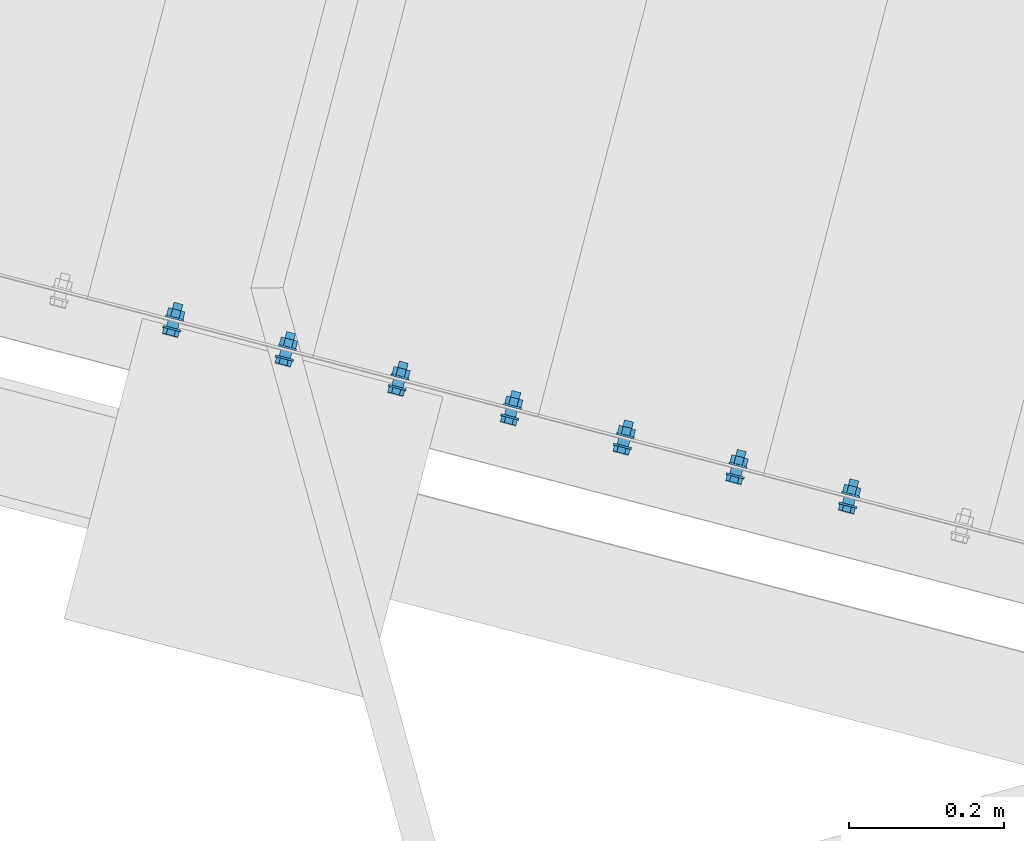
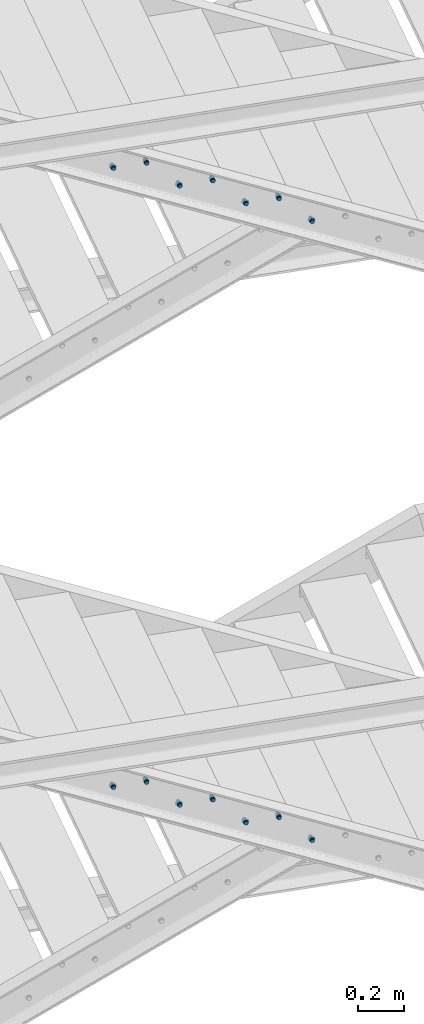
# One storey, part 136 of 169: 14 mechanical fasteners, 8 elements without a shape of their own.
"""IFC2X3 building model written with IfcOpenShell, lengths in millimetres."""

from ifc_helpers import new_model, si_unit, frame, frame_2d, origin_with_axes, origin_2d_with_axis, place, context, subcontext, project, spatial, polyline, circle_curve, parameter, trimmed, segment, composite_curve, circle, outline, extrude, source, transform, mapped, material, type_object, element, aggregate, save


model = new_model("IFC2X3")

# Units and contexts
model_context = context("Model", 3, precision=1e-05, world=origin_with_axes())
body_context = subcontext(model_context, "Body", "Model", "MODEL_VIEW")
ifc_project = project(units=[si_unit("LENGTHUNIT", "METRE", prefix="MILLI"), si_unit("AREAUNIT", "SQUARE_METRE"), si_unit("VOLUMEUNIT", "CUBIC_METRE"), si_unit("MASSUNIT", "GRAM", prefix="KILO"), si_unit("TIMEUNIT", "SECOND"), si_unit("PLANEANGLEUNIT", "RADIAN"), si_unit("SOLIDANGLEUNIT", "STERADIAN"), si_unit("THERMODYNAMICTEMPERATUREUNIT", "DEGREE_CELSIUS"), si_unit("LUMINOUSINTENSITYUNIT", "LUMEN")], contexts=[model_context])

# Site, building, storey
site_placement = place(None, origin_with_axes())
site = spatial("IfcSite", under=ifc_project, at=site_placement, Name="Undefined", CompositionType="ELEMENT")
building_placement = place(site_placement, origin_with_axes())
building = spatial("IfcBuilding", under=site, at=building_placement, Name="Undefined", CompositionType="ELEMENT")
storey_placement = place(building_placement, origin_with_axes())
storey = spatial("IfcBuildingStorey", under=building, at=storey_placement, Name="Undefined", CompositionType="ELEMENT", Elevation=0.0)

# Assembly, mechanical fastener
assembly_1_placement = place(storey_placement, origin_with_axes())
assembly_1 = element("IfcElementAssembly", 1, at=assembly_1_placement, inside=storey, Name="Steel Assembly", AssemblyPlace="NOTDEFINED", PredefinedType="RIGID_FRAME")
ifc_material = material(Name="Undefined")
discrete_accessory_type = type_object("IfcDiscreteAccessoryType", Name="Bolt assembly")
shared_shape_1 = source(origin_with_axes(), body_context, "Body", "SweptSolid", [
    extrude(circle(Radius=7.5, at=origin_2d_with_axis()), frame((0.0, -8.39999975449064, 0.0), z_axis=(0.0, 1.0, 0.0), x_axis=(1.0, 0.0, 0.0)), (0.0, 0.0, 1.0), 8.5),
    extrude(circle(Radius=7.5, at=origin_2d_with_axis()), frame((0.0, -0.100000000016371, 0.0), z_axis=(0.0, 1.0, 0.0), x_axis=(1.0, 0.0, 0.0)), (0.0, 0.0, 1.0), 3.1),
    extrude(outline(polyline([(10.39230484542, 0.0), (5.19615242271, 9.00000000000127), (-5.19615242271, 9.00000000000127), (-10.39230484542, 0.0), (-5.19615242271, -9.00000000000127), (5.19615242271, -9.00000000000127), (10.39230484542, 0.0)])), frame((0.0, -18.4999993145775, 0.0), z_axis=(0.0, 1.0, 0.0), x_axis=(1.0, 0.0, 0.0)), (0.0, 0.0, 1.0), 7.5),
    extrude(circle(Radius=6.0, at=origin_2d_with_axis()), frame((0.0, -10.9999999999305, 0.0), z_axis=(0.0, 1.0, 0.0), x_axis=(1.0, 0.0, 0.0)), (0.0, 0.0, 1.0), 35.0),
    extrude(circle(Radius=12.0, at=origin_2d_with_axis()), frame((0.0, -10.9999999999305, 0.0), z_axis=(0.0, 1.0, 0.0), x_axis=(1.0, 0.0, 0.0)), (0.0, 0.0, 1.0), 2.5),
    extrude(circle(Radius=12.0, at=origin_2d_with_axis()), frame((0.0, 2.99999999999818, 0.0), z_axis=(0.0, 1.0, 0.0), x_axis=(1.0, 0.0, 0.0)), (0.0, 0.0, 1.0), 2.5),
    extrude(outline(polyline([(10.96965511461, 0.0), (5.484827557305, 9.50000000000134), (-5.484827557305, 9.50000000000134), (-10.96965511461, 0.0), (-5.484827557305, -9.50000000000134), (5.484827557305, -9.50000000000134), (10.96965511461, 0.0)])), frame((0.0, 5.50000000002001, 0.0), z_axis=(0.0, 1.0, 0.0), x_axis=(1.0, 0.0, 0.0)), (0.0, 0.0, 1.0), 10.0),
])
mechanical_fastener_1_placement = place(assembly_1_placement, frame((-27175.3092427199, 5510.20873602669, 11750.3215824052), z_axis=(-2.54700353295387e-10, 0.0, -1.0), x_axis=(-0.967546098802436, 0.252694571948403, 0.0)))
mechanical_fastener_1 = element("IfcMechanicalFastener", 2, at=mechanical_fastener_1_placement, type_object=discrete_accessory_type, material=ifc_material, Name="Bolt assembly", NominalDiameter=12.0, NominalLength=35.0, context=body_context, shape_type="MappedRepresentation", body=[
    mapped(shared_shape_1, transform((35.0000000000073, -1.23691279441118e-10, 25.0))),
])

assembly_2_placement = place(storey_placement, origin_with_axes())
assembly_2 = element("IfcElementAssembly", 3, at=assembly_2_placement, inside=storey, Name="Steel Assembly", AssemblyPlace="NOTDEFINED", PredefinedType="RIGID_FRAME")
mechanical_fastener_2_placement = place(assembly_2_placement, frame((-26885.0454096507, 5434.40036367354, 11600.3215824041), z_axis=(-2.54700353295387e-10, 0.0, -1.0), x_axis=(-0.967546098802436, 0.252694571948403, 0.0)))
mechanical_fastener_2 = element("IfcMechanicalFastener", 4, at=mechanical_fastener_2_placement, type_object=discrete_accessory_type, material=ifc_material, Name="Bolt assembly", NominalDiameter=12.0, NominalLength=35.0, context=body_context, shape_type="MappedRepresentation", body=[
    mapped(shared_shape_1, transform((35.0000000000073, -1.23691279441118e-10, 25.0))),
])

assembly_3_placement = place(storey_placement, origin_with_axes())
assembly_3 = element("IfcElementAssembly", 5, at=assembly_3_placement, inside=storey, Name="Steel Assembly", AssemblyPlace="NOTDEFINED", PredefinedType="RIGID_FRAME")
mechanical_fastener_3_placement = place(assembly_3_placement, frame((-26594.7815765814, 5358.59199132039, 11450.3215824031), z_axis=(-2.54700353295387e-10, 0.0, -1.0), x_axis=(-0.967546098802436, 0.252694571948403, 0.0)))
mechanical_fastener_3 = element("IfcMechanicalFastener", 6, at=mechanical_fastener_3_placement, type_object=discrete_accessory_type, material=ifc_material, Name="Bolt assembly", NominalDiameter=12.0, NominalLength=35.0, context=body_context, shape_type="MappedRepresentation", body=[
    mapped(shared_shape_1, transform((35.0000000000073, -1.23691279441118e-10, 25.0))),
])

assembly_4_placement = place(storey_placement, origin_with_axes())
assembly_4 = element("IfcElementAssembly", 7, at=assembly_4_placement, inside=storey, Name="Steel Assembly", AssemblyPlace="NOTDEFINED", PredefinedType="RIGID_FRAME")
mechanical_fastener_4_placement = place(assembly_4_placement, frame((-27175.4233201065, 5509.77182105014, 8450.32161330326), z_axis=(-2.54700353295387e-10, 0.0, -1.0), x_axis=(-0.967546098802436, 0.252694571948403, 0.0)))
mechanical_fastener_4 = element("IfcMechanicalFastener", 8, at=mechanical_fastener_4_placement, type_object=discrete_accessory_type, material=ifc_material, Name="Bolt assembly", NominalDiameter=12.0, NominalLength=35.0, context=body_context, shape_type="MappedRepresentation", body=[
    mapped(shared_shape_1, transform((35.0000000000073, -1.23691279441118e-10, 25.0))),
])

assembly_5_placement = place(storey_placement, origin_with_axes())
assembly_5 = element("IfcElementAssembly", 9, at=assembly_5_placement, inside=storey, Name="Steel Assembly", AssemblyPlace="NOTDEFINED", PredefinedType="RIGID_FRAME")
mechanical_fastener_5_placement = place(assembly_5_placement, frame((-26885.1594870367, 5433.96344869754, 8300.32161330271), z_axis=(-2.54700353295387e-10, 0.0, -1.0), x_axis=(-0.967546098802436, 0.252694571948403, 0.0)))
mechanical_fastener_5 = element("IfcMechanicalFastener", 10, at=mechanical_fastener_5_placement, type_object=discrete_accessory_type, material=ifc_material, Name="Bolt assembly", NominalDiameter=12.0, NominalLength=35.0, context=body_context, shape_type="MappedRepresentation", body=[
    mapped(shared_shape_1, transform((35.0000000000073, -1.23691279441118e-10, 25.0))),
])

assembly_6_placement = place(storey_placement, origin_with_axes())
assembly_6 = element("IfcElementAssembly", 11, at=assembly_6_placement, inside=storey, Name="Steel Assembly", AssemblyPlace="NOTDEFINED", PredefinedType="RIGID_FRAME")
mechanical_fastener_6_placement = place(assembly_6_placement, frame((-26594.8956539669, 5358.15507634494, 8150.32161330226), z_axis=(-2.54700353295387e-10, 0.0, -1.0), x_axis=(-0.967546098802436, 0.252694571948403, 0.0)))
mechanical_fastener_6 = element("IfcMechanicalFastener", 12, at=mechanical_fastener_6_placement, type_object=discrete_accessory_type, material=ifc_material, Name="Bolt assembly", NominalDiameter=12.0, NominalLength=35.0, context=body_context, shape_type="MappedRepresentation", body=[
    mapped(shared_shape_1, transform((35.0000000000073, -1.23691279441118e-10, 25.0))),
])

# Mechanical fastener
shared_shape_2 = source(origin_with_axes(), body_context, "Body", "SweptSolid", [
    extrude(circle(Radius=7.5, at=origin_2d_with_axis()), frame((0.0, -8.39999975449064, 0.0), z_axis=(0.0, 1.0, 0.0), x_axis=(1.0, 0.0, 0.0)), (0.0, 0.0, 1.0), 8.5),
    extrude(outline(composite_curve([segment(polyline([(-10.0, 7.5), (10.0, 7.5)]), True, "CONTINUOUS"), segment(trimmed(circle_curve(frame_2d((10.0, 0.0), x_axis=(0.0, 1.0)), 7.5), [parameter(0.0)], [parameter(3.14159265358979)], False, "PARAMETER"), True, "CONTINUOUS"), segment(polyline([(10.0, -7.5), (-10.0, -7.5)]), True, "CONTINUOUS"), segment(trimmed(circle_curve(frame_2d((-10.0, 0.0), x_axis=(0.0, -1.0)), 7.5), [parameter(0.0)], [parameter(3.14159265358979)], False, "PARAMETER"), True, "DISCONTINUOUS")], self_intersect=False)), frame((0.0, -0.100000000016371, 0.0), z_axis=(0.0, 1.0, 0.0), x_axis=(1.0, 0.0, 0.0)), (0.0, 0.0, 1.0), 3.1),
    extrude(outline(polyline([(10.39230484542, 0.0), (5.19615242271, 9.00000000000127), (-5.19615242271, 9.00000000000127), (-10.39230484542, 0.0), (-5.19615242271, -9.00000000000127), (5.19615242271, -9.00000000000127), (10.39230484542, 0.0)])), frame((0.0, -18.4999993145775, 0.0), z_axis=(0.0, 1.0, 0.0), x_axis=(1.0, 0.0, 0.0)), (0.0, 0.0, 1.0), 7.5),
    extrude(circle(Radius=6.0, at=origin_2d_with_axis()), frame((0.0, -10.9999999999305, 0.0), z_axis=(0.0, 1.0, 0.0), x_axis=(1.0, 0.0, 0.0)), (0.0, 0.0, 1.0), 35.0),
    extrude(circle(Radius=12.0, at=origin_2d_with_axis()), frame((0.0, -10.9999999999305, 0.0), z_axis=(0.0, 1.0, 0.0), x_axis=(1.0, 0.0, 0.0)), (0.0, 0.0, 1.0), 2.5),
    extrude(circle(Radius=12.0, at=origin_2d_with_axis()), frame((0.0, 2.99999999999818, 0.0), z_axis=(0.0, 1.0, 0.0), x_axis=(1.0, 0.0, 0.0)), (0.0, 0.0, 1.0), 2.5),
    extrude(outline(polyline([(10.96965511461, 0.0), (5.484827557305, 9.50000000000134), (-5.484827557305, 9.50000000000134), (-10.96965511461, 0.0), (-5.484827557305, -9.50000000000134), (5.484827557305, -9.50000000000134), (10.96965511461, 0.0)])), frame((0.0, 5.50000000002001, 0.0), z_axis=(0.0, 1.0, 0.0), x_axis=(1.0, 0.0, 0.0)), (0.0, 0.0, 1.0), 10.0),
])
mechanical_fastener_7_placement = place(assembly_1_placement, frame((-27175.3092427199, 5510.20873602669, 11750.3215824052), z_axis=(-2.54700353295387e-10, 0.0, -1.0), x_axis=(-0.967546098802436, 0.252694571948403, 0.0)))
mechanical_fastener_7 = element("IfcMechanicalFastener", 13, at=mechanical_fastener_7_placement, type_object=discrete_accessory_type, material=ifc_material, Name="Bolt assembly", NominalDiameter=12.0, NominalLength=35.0, context=body_context, shape_type="MappedRepresentation", body=[
    mapped(shared_shape_2, transform((185.00000000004, -6.51198206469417e-10, 25.0))),
])

aggregate(assembly_1, [mechanical_fastener_7, mechanical_fastener_1])

shared_shape_3 = source(origin_with_axes(), body_context, "Body", "SweptSolid", [
    extrude(circle(Radius=7.5, at=origin_2d_with_axis()), frame((0.0, -8.39999975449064, 0.0), z_axis=(0.0, 1.0, 0.0), x_axis=(1.0, 0.0, 0.0)), (0.0, 0.0, 1.0), 8.5),
    extrude(outline(composite_curve([segment(polyline([(-10.0, 7.5), (10.0, 7.5)]), True, "CONTINUOUS"), segment(trimmed(circle_curve(frame_2d((10.0, 0.0), x_axis=(0.0, 1.0)), 7.5), [parameter(0.0)], [parameter(3.14159265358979)], False, "PARAMETER"), True, "CONTINUOUS"), segment(polyline([(10.0, -7.5), (-10.0, -7.5)]), True, "CONTINUOUS"), segment(trimmed(circle_curve(frame_2d((-10.0, 0.0), x_axis=(0.0, -1.0)), 7.5), [parameter(0.0)], [parameter(3.14159265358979)], False, "PARAMETER"), True, "DISCONTINUOUS")], self_intersect=False)), frame((0.0, -0.100000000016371, 0.0), z_axis=(0.0, 1.0, 0.0), x_axis=(1.0, 0.0, 0.0)), (0.0, 0.0, 1.0), 3.1),
    extrude(outline(polyline([(10.39230484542, 0.0), (5.19615242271, 9.00000000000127), (-5.19615242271, 9.00000000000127), (-10.39230484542, 0.0), (-5.19615242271, -9.00000000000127), (5.19615242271, -9.00000000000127), (10.39230484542, 0.0)])), frame((0.0, -18.4999993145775, 0.0), z_axis=(0.0, 1.0, 0.0), x_axis=(1.0, 0.0, 0.0)), (0.0, 0.0, 1.0), 7.5),
    extrude(circle(Radius=6.0, at=origin_2d_with_axis()), frame((0.0, -10.9999999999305, 0.0), z_axis=(0.0, 1.0, 0.0), x_axis=(1.0, 0.0, 0.0)), (0.0, 0.0, 1.0), 35.0),
    extrude(circle(Radius=12.0, at=origin_2d_with_axis()), frame((0.0, -10.9999999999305, 0.0), z_axis=(0.0, 1.0, 0.0), x_axis=(1.0, 0.0, 0.0)), (0.0, 0.0, 1.0), 2.5),
    extrude(circle(Radius=12.0, at=origin_2d_with_axis()), frame((0.0, 2.99999999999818, 0.0), z_axis=(0.0, 1.0, 0.0), x_axis=(1.0, 0.0, 0.0)), (0.0, 0.0, 1.0), 2.5),
    extrude(outline(polyline([(10.96965511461, 0.0), (5.484827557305, 9.50000000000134), (-5.484827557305, 9.50000000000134), (-10.96965511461, 0.0), (-5.484827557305, -9.50000000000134), (5.484827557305, -9.50000000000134), (10.96965511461, 0.0)])), frame((0.0, 5.50000000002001, 0.0), z_axis=(0.0, 1.0, 0.0), x_axis=(1.0, 0.0, 0.0)), (0.0, 0.0, 1.0), 10.0),
])
mechanical_fastener_8_placement = place(assembly_2_placement, frame((-26885.0454096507, 5434.40036367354, 11600.3215824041), z_axis=(-2.54700353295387e-10, 0.0, -1.0), x_axis=(-0.967546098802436, 0.252694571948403, 0.0)))
mechanical_fastener_8 = element("IfcMechanicalFastener", 14, at=mechanical_fastener_8_placement, type_object=discrete_accessory_type, material=ifc_material, Name="Bolt assembly", NominalDiameter=12.0, NominalLength=35.0, context=body_context, shape_type="MappedRepresentation", body=[
    mapped(shared_shape_3, transform((185.00000000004, -6.51198206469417e-10, 25.0))),
])

aggregate(assembly_2, [mechanical_fastener_8, mechanical_fastener_2])

shared_shape_4 = source(origin_with_axes(), body_context, "Body", "SweptSolid", [
    extrude(circle(Radius=7.5, at=origin_2d_with_axis()), frame((0.0, -8.39999975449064, 0.0), z_axis=(0.0, 1.0, 0.0), x_axis=(1.0, 0.0, 0.0)), (0.0, 0.0, 1.0), 8.5),
    extrude(outline(composite_curve([segment(polyline([(-10.0, 7.5), (10.0, 7.5)]), True, "CONTINUOUS"), segment(trimmed(circle_curve(frame_2d((10.0, 0.0), x_axis=(0.0, 1.0)), 7.5), [parameter(0.0)], [parameter(3.14159265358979)], False, "PARAMETER"), True, "CONTINUOUS"), segment(polyline([(10.0, -7.5), (-10.0, -7.5)]), True, "CONTINUOUS"), segment(trimmed(circle_curve(frame_2d((-10.0, 0.0), x_axis=(0.0, -1.0)), 7.5), [parameter(0.0)], [parameter(3.14159265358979)], False, "PARAMETER"), True, "DISCONTINUOUS")], self_intersect=False)), frame((0.0, -0.100000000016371, 0.0), z_axis=(0.0, 1.0, 0.0), x_axis=(1.0, 0.0, 0.0)), (0.0, 0.0, 1.0), 3.1),
    extrude(outline(polyline([(10.39230484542, 0.0), (5.19615242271, 9.00000000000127), (-5.19615242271, 9.00000000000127), (-10.39230484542, 0.0), (-5.19615242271, -9.00000000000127), (5.19615242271, -9.00000000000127), (10.39230484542, 0.0)])), frame((0.0, -18.4999993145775, 0.0), z_axis=(0.0, 1.0, 0.0), x_axis=(1.0, 0.0, 0.0)), (0.0, 0.0, 1.0), 7.5),
    extrude(circle(Radius=6.0, at=origin_2d_with_axis()), frame((0.0, -10.9999999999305, 0.0), z_axis=(0.0, 1.0, 0.0), x_axis=(1.0, 0.0, 0.0)), (0.0, 0.0, 1.0), 35.0),
    extrude(circle(Radius=12.0, at=origin_2d_with_axis()), frame((0.0, -10.9999999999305, 0.0), z_axis=(0.0, 1.0, 0.0), x_axis=(1.0, 0.0, 0.0)), (0.0, 0.0, 1.0), 2.5),
    extrude(circle(Radius=12.0, at=origin_2d_with_axis()), frame((0.0, 2.99999999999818, 0.0), z_axis=(0.0, 1.0, 0.0), x_axis=(1.0, 0.0, 0.0)), (0.0, 0.0, 1.0), 2.5),
    extrude(outline(polyline([(10.96965511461, 0.0), (5.484827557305, 9.50000000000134), (-5.484827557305, 9.50000000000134), (-10.96965511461, 0.0), (-5.484827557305, -9.50000000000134), (5.484827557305, -9.50000000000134), (10.96965511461, 0.0)])), frame((0.0, 5.50000000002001, 0.0), z_axis=(0.0, 1.0, 0.0), x_axis=(1.0, 0.0, 0.0)), (0.0, 0.0, 1.0), 10.0),
])
mechanical_fastener_9_placement = place(assembly_3_placement, frame((-26594.7815765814, 5358.59199132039, 11450.3215824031), z_axis=(-2.54700353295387e-10, 0.0, -1.0), x_axis=(-0.967546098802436, 0.252694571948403, 0.0)))
mechanical_fastener_9 = element("IfcMechanicalFastener", 15, at=mechanical_fastener_9_placement, type_object=discrete_accessory_type, material=ifc_material, Name="Bolt assembly", NominalDiameter=12.0, NominalLength=35.0, context=body_context, shape_type="MappedRepresentation", body=[
    mapped(shared_shape_4, transform((185.00000000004, -6.51198206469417e-10, 25.0))),
])

aggregate(assembly_3, [mechanical_fastener_9, mechanical_fastener_3])

# Assembly, mechanical fastener
assembly_7_placement = place(storey_placement, origin_with_axes())
assembly_7 = element("IfcElementAssembly", 16, at=assembly_7_placement, inside=storey, Name="Steel Assembly", AssemblyPlace="NOTDEFINED", PredefinedType="RIGID_FRAME")
shared_shape_5 = source(origin_with_axes(), body_context, "Body", "SweptSolid", [
    extrude(circle(Radius=7.5, at=origin_2d_with_axis()), frame((0.0, -8.39999975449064, 0.0), z_axis=(0.0, 1.0, 0.0), x_axis=(1.0, 0.0, 0.0)), (0.0, 0.0, 1.0), 8.5),
    extrude(outline(composite_curve([segment(polyline([(-10.0, 7.5), (10.0, 7.5)]), True, "CONTINUOUS"), segment(trimmed(circle_curve(frame_2d((10.0, 0.0), x_axis=(0.0, 1.0)), 7.5), [parameter(0.0)], [parameter(3.14159265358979)], False, "PARAMETER"), True, "CONTINUOUS"), segment(polyline([(10.0, -7.5), (-10.0, -7.5)]), True, "CONTINUOUS"), segment(trimmed(circle_curve(frame_2d((-10.0, 0.0), x_axis=(0.0, -1.0)), 7.5), [parameter(0.0)], [parameter(3.14159265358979)], False, "PARAMETER"), True, "DISCONTINUOUS")], self_intersect=False)), frame((0.0, -0.100000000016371, 0.0), z_axis=(0.0, 1.0, 0.0), x_axis=(1.0, 0.0, 0.0)), (0.0, 0.0, 1.0), 3.1),
    extrude(outline(polyline([(10.39230484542, 0.0), (5.19615242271, 9.00000000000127), (-5.19615242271, 9.00000000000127), (-10.39230484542, 0.0), (-5.19615242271, -9.00000000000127), (5.19615242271, -9.00000000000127), (10.39230484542, 0.0)])), frame((0.0, -18.4999993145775, 0.0), z_axis=(0.0, 1.0, 0.0), x_axis=(1.0, 0.0, 0.0)), (0.0, 0.0, 1.0), 7.5),
    extrude(circle(Radius=6.0, at=origin_2d_with_axis()), frame((0.0, -10.9999999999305, 0.0), z_axis=(0.0, 1.0, 0.0), x_axis=(1.0, 0.0, 0.0)), (0.0, 0.0, 1.0), 35.0),
    extrude(circle(Radius=12.0, at=origin_2d_with_axis()), frame((0.0, -10.9999999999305, 0.0), z_axis=(0.0, 1.0, 0.0), x_axis=(1.0, 0.0, 0.0)), (0.0, 0.0, 1.0), 2.5),
    extrude(circle(Radius=12.0, at=origin_2d_with_axis()), frame((0.0, 2.99999999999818, 0.0), z_axis=(0.0, 1.0, 0.0), x_axis=(1.0, 0.0, 0.0)), (0.0, 0.0, 1.0), 2.5),
    extrude(outline(polyline([(10.96965511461, 0.0), (5.484827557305, 9.50000000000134), (-5.484827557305, 9.50000000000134), (-10.96965511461, 0.0), (-5.484827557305, -9.50000000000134), (5.484827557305, -9.50000000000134), (10.96965511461, 0.0)])), frame((0.0, 5.50000000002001, 0.0), z_axis=(0.0, 1.0, 0.0), x_axis=(1.0, 0.0, 0.0)), (0.0, 0.0, 1.0), 10.0),
])
mechanical_fastener_10_placement = place(assembly_7_placement, frame((-26304.5177435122, 5282.78361896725, 11300.321582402), z_axis=(-2.54700353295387e-10, 0.0, -1.0), x_axis=(-0.967546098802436, 0.252694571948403, 0.0)))
mechanical_fastener_10 = element("IfcMechanicalFastener", 17, at=mechanical_fastener_10_placement, type_object=discrete_accessory_type, material=ifc_material, Name="Bolt assembly", NominalDiameter=12.0, NominalLength=35.0, context=body_context, shape_type="MappedRepresentation", body=[
    mapped(shared_shape_5, transform((185.00000000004, -6.51198206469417e-10, 25.0))),
])
aggregate(assembly_7, [mechanical_fastener_10])

# Mechanical fastener
shared_shape_6 = source(origin_with_axes(), body_context, "Body", "SweptSolid", [
    extrude(circle(Radius=7.5, at=origin_2d_with_axis()), frame((0.0, -8.39999975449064, 0.0), z_axis=(0.0, 1.0, 0.0), x_axis=(1.0, 0.0, 0.0)), (0.0, 0.0, 1.0), 8.5),
    extrude(outline(composite_curve([segment(polyline([(-10.0, 7.5), (10.0, 7.5)]), True, "CONTINUOUS"), segment(trimmed(circle_curve(frame_2d((10.0, 0.0), x_axis=(0.0, 1.0)), 7.5), [parameter(0.0)], [parameter(3.14159265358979)], False, "PARAMETER"), True, "CONTINUOUS"), segment(polyline([(10.0, -7.5), (-10.0, -7.5)]), True, "CONTINUOUS"), segment(trimmed(circle_curve(frame_2d((-10.0, 0.0), x_axis=(0.0, -1.0)), 7.5), [parameter(0.0)], [parameter(3.14159265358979)], False, "PARAMETER"), True, "DISCONTINUOUS")], self_intersect=False)), frame((0.0, -0.100000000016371, 0.0), z_axis=(0.0, 1.0, 0.0), x_axis=(1.0, 0.0, 0.0)), (0.0, 0.0, 1.0), 3.1),
    extrude(outline(polyline([(10.39230484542, 0.0), (5.19615242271, 9.00000000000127), (-5.19615242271, 9.00000000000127), (-10.39230484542, 0.0), (-5.19615242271, -9.00000000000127), (5.19615242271, -9.00000000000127), (10.39230484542, 0.0)])), frame((0.0, -18.4999993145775, 0.0), z_axis=(0.0, 1.0, 0.0), x_axis=(1.0, 0.0, 0.0)), (0.0, 0.0, 1.0), 7.5),
    extrude(circle(Radius=6.0, at=origin_2d_with_axis()), frame((0.0, -10.9999999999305, 0.0), z_axis=(0.0, 1.0, 0.0), x_axis=(1.0, 0.0, 0.0)), (0.0, 0.0, 1.0), 35.0),
    extrude(circle(Radius=12.0, at=origin_2d_with_axis()), frame((0.0, -10.9999999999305, 0.0), z_axis=(0.0, 1.0, 0.0), x_axis=(1.0, 0.0, 0.0)), (0.0, 0.0, 1.0), 2.5),
    extrude(circle(Radius=12.0, at=origin_2d_with_axis()), frame((0.0, 2.99999999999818, 0.0), z_axis=(0.0, 1.0, 0.0), x_axis=(1.0, 0.0, 0.0)), (0.0, 0.0, 1.0), 2.5),
    extrude(outline(polyline([(10.96965511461, 0.0), (5.484827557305, 9.50000000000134), (-5.484827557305, 9.50000000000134), (-10.96965511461, 0.0), (-5.484827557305, -9.50000000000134), (5.484827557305, -9.50000000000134), (10.96965511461, 0.0)])), frame((0.0, 5.50000000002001, 0.0), z_axis=(0.0, 1.0, 0.0), x_axis=(1.0, 0.0, 0.0)), (0.0, 0.0, 1.0), 10.0),
])
mechanical_fastener_11_placement = place(assembly_4_placement, frame((-27175.4233201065, 5509.77182105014, 8450.32161330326), z_axis=(-2.54700353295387e-10, 0.0, -1.0), x_axis=(-0.967546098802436, 0.252694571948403, 0.0)))
mechanical_fastener_11 = element("IfcMechanicalFastener", 18, at=mechanical_fastener_11_placement, type_object=discrete_accessory_type, material=ifc_material, Name="Bolt assembly", NominalDiameter=12.0, NominalLength=35.0, context=body_context, shape_type="MappedRepresentation", body=[
    mapped(shared_shape_6, transform((185.00000000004, -6.51198206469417e-10, 25.0))),
])

aggregate(assembly_4, [mechanical_fastener_11, mechanical_fastener_4])

shared_shape_7 = source(origin_with_axes(), body_context, "Body", "SweptSolid", [
    extrude(circle(Radius=7.5, at=origin_2d_with_axis()), frame((0.0, -8.39999975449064, 0.0), z_axis=(0.0, 1.0, 0.0), x_axis=(1.0, 0.0, 0.0)), (0.0, 0.0, 1.0), 8.5),
    extrude(outline(composite_curve([segment(polyline([(-10.0, 7.5), (10.0, 7.5)]), True, "CONTINUOUS"), segment(trimmed(circle_curve(frame_2d((10.0, 0.0), x_axis=(0.0, 1.0)), 7.5), [parameter(0.0)], [parameter(3.14159265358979)], False, "PARAMETER"), True, "CONTINUOUS"), segment(polyline([(10.0, -7.5), (-10.0, -7.5)]), True, "CONTINUOUS"), segment(trimmed(circle_curve(frame_2d((-10.0, 0.0), x_axis=(0.0, -1.0)), 7.5), [parameter(0.0)], [parameter(3.14159265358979)], False, "PARAMETER"), True, "DISCONTINUOUS")], self_intersect=False)), frame((0.0, -0.100000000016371, 0.0), z_axis=(0.0, 1.0, 0.0), x_axis=(1.0, 0.0, 0.0)), (0.0, 0.0, 1.0), 3.1),
    extrude(outline(polyline([(10.39230484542, 0.0), (5.19615242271, 9.00000000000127), (-5.19615242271, 9.00000000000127), (-10.39230484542, 0.0), (-5.19615242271, -9.00000000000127), (5.19615242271, -9.00000000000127), (10.39230484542, 0.0)])), frame((0.0, -18.4999993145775, 0.0), z_axis=(0.0, 1.0, 0.0), x_axis=(1.0, 0.0, 0.0)), (0.0, 0.0, 1.0), 7.5),
    extrude(circle(Radius=6.0, at=origin_2d_with_axis()), frame((0.0, -10.9999999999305, 0.0), z_axis=(0.0, 1.0, 0.0), x_axis=(1.0, 0.0, 0.0)), (0.0, 0.0, 1.0), 35.0),
    extrude(circle(Radius=12.0, at=origin_2d_with_axis()), frame((0.0, -10.9999999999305, 0.0), z_axis=(0.0, 1.0, 0.0), x_axis=(1.0, 0.0, 0.0)), (0.0, 0.0, 1.0), 2.5),
    extrude(circle(Radius=12.0, at=origin_2d_with_axis()), frame((0.0, 2.99999999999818, 0.0), z_axis=(0.0, 1.0, 0.0), x_axis=(1.0, 0.0, 0.0)), (0.0, 0.0, 1.0), 2.5),
    extrude(outline(polyline([(10.96965511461, 0.0), (5.484827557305, 9.50000000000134), (-5.484827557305, 9.50000000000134), (-10.96965511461, 0.0), (-5.484827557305, -9.50000000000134), (5.484827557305, -9.50000000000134), (10.96965511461, 0.0)])), frame((0.0, 5.50000000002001, 0.0), z_axis=(0.0, 1.0, 0.0), x_axis=(1.0, 0.0, 0.0)), (0.0, 0.0, 1.0), 10.0),
])
mechanical_fastener_12_placement = place(assembly_5_placement, frame((-26885.1594870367, 5433.96344869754, 8300.32161330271), z_axis=(-2.54700353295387e-10, 0.0, -1.0), x_axis=(-0.967546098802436, 0.252694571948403, 0.0)))
mechanical_fastener_12 = element("IfcMechanicalFastener", 19, at=mechanical_fastener_12_placement, type_object=discrete_accessory_type, material=ifc_material, Name="Bolt assembly", NominalDiameter=12.0, NominalLength=35.0, context=body_context, shape_type="MappedRepresentation", body=[
    mapped(shared_shape_7, transform((185.00000000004, -6.51198206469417e-10, 25.0))),
])

aggregate(assembly_5, [mechanical_fastener_12, mechanical_fastener_5])

shared_shape_8 = source(origin_with_axes(), body_context, "Body", "SweptSolid", [
    extrude(circle(Radius=7.5, at=origin_2d_with_axis()), frame((0.0, -8.39999975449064, 0.0), z_axis=(0.0, 1.0, 0.0), x_axis=(1.0, 0.0, 0.0)), (0.0, 0.0, 1.0), 8.5),
    extrude(outline(composite_curve([segment(polyline([(-10.0, 7.5), (10.0, 7.5)]), True, "CONTINUOUS"), segment(trimmed(circle_curve(frame_2d((10.0, 0.0), x_axis=(0.0, 1.0)), 7.5), [parameter(0.0)], [parameter(3.14159265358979)], False, "PARAMETER"), True, "CONTINUOUS"), segment(polyline([(10.0, -7.5), (-10.0, -7.5)]), True, "CONTINUOUS"), segment(trimmed(circle_curve(frame_2d((-10.0, 0.0), x_axis=(0.0, -1.0)), 7.5), [parameter(0.0)], [parameter(3.14159265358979)], False, "PARAMETER"), True, "DISCONTINUOUS")], self_intersect=False)), frame((0.0, -0.100000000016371, 0.0), z_axis=(0.0, 1.0, 0.0), x_axis=(1.0, 0.0, 0.0)), (0.0, 0.0, 1.0), 3.1),
    extrude(outline(polyline([(10.39230484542, 0.0), (5.19615242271, 9.00000000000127), (-5.19615242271, 9.00000000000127), (-10.39230484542, 0.0), (-5.19615242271, -9.00000000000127), (5.19615242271, -9.00000000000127), (10.39230484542, 0.0)])), frame((0.0, -18.4999993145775, 0.0), z_axis=(0.0, 1.0, 0.0), x_axis=(1.0, 0.0, 0.0)), (0.0, 0.0, 1.0), 7.5),
    extrude(circle(Radius=6.0, at=origin_2d_with_axis()), frame((0.0, -10.9999999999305, 0.0), z_axis=(0.0, 1.0, 0.0), x_axis=(1.0, 0.0, 0.0)), (0.0, 0.0, 1.0), 35.0),
    extrude(circle(Radius=12.0, at=origin_2d_with_axis()), frame((0.0, -10.9999999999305, 0.0), z_axis=(0.0, 1.0, 0.0), x_axis=(1.0, 0.0, 0.0)), (0.0, 0.0, 1.0), 2.5),
    extrude(circle(Radius=12.0, at=origin_2d_with_axis()), frame((0.0, 2.99999999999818, 0.0), z_axis=(0.0, 1.0, 0.0), x_axis=(1.0, 0.0, 0.0)), (0.0, 0.0, 1.0), 2.5),
    extrude(outline(polyline([(10.96965511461, 0.0), (5.484827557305, 9.50000000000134), (-5.484827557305, 9.50000000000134), (-10.96965511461, 0.0), (-5.484827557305, -9.50000000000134), (5.484827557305, -9.50000000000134), (10.96965511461, 0.0)])), frame((0.0, 5.50000000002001, 0.0), z_axis=(0.0, 1.0, 0.0), x_axis=(1.0, 0.0, 0.0)), (0.0, 0.0, 1.0), 10.0),
])
mechanical_fastener_13_placement = place(assembly_6_placement, frame((-26594.8956539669, 5358.15507634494, 8150.32161330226), z_axis=(-2.54700353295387e-10, 0.0, -1.0), x_axis=(-0.967546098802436, 0.252694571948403, 0.0)))
mechanical_fastener_13 = element("IfcMechanicalFastener", 20, at=mechanical_fastener_13_placement, type_object=discrete_accessory_type, material=ifc_material, Name="Bolt assembly", NominalDiameter=12.0, NominalLength=35.0, context=body_context, shape_type="MappedRepresentation", body=[
    mapped(shared_shape_8, transform((185.00000000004, -6.51198206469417e-10, 25.0))),
])

aggregate(assembly_6, [mechanical_fastener_13, mechanical_fastener_6])

# Assembly, mechanical fastener
assembly_8_placement = place(storey_placement, origin_with_axes())
assembly_8 = element("IfcElementAssembly", 21, at=assembly_8_placement, inside=storey, Name="Steel Assembly", AssemblyPlace="NOTDEFINED", PredefinedType="RIGID_FRAME")
shared_shape_9 = source(origin_with_axes(), body_context, "Body", "SweptSolid", [
    extrude(circle(Radius=7.5, at=origin_2d_with_axis()), frame((0.0, -8.39999975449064, 0.0), z_axis=(0.0, 1.0, 0.0), x_axis=(1.0, 0.0, 0.0)), (0.0, 0.0, 1.0), 8.5),
    extrude(outline(composite_curve([segment(polyline([(-10.0, 7.5), (10.0, 7.5)]), True, "CONTINUOUS"), segment(trimmed(circle_curve(frame_2d((10.0, 0.0), x_axis=(0.0, 1.0)), 7.5), [parameter(0.0)], [parameter(3.14159265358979)], False, "PARAMETER"), True, "CONTINUOUS"), segment(polyline([(10.0, -7.5), (-10.0, -7.5)]), True, "CONTINUOUS"), segment(trimmed(circle_curve(frame_2d((-10.0, 0.0), x_axis=(0.0, -1.0)), 7.5), [parameter(0.0)], [parameter(3.14159265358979)], False, "PARAMETER"), True, "DISCONTINUOUS")], self_intersect=False)), frame((0.0, -0.100000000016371, 0.0), z_axis=(0.0, 1.0, 0.0), x_axis=(1.0, 0.0, 0.0)), (0.0, 0.0, 1.0), 3.1),
    extrude(outline(polyline([(10.39230484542, 0.0), (5.19615242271, 9.00000000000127), (-5.19615242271, 9.00000000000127), (-10.39230484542, 0.0), (-5.19615242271, -9.00000000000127), (5.19615242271, -9.00000000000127), (10.39230484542, 0.0)])), frame((0.0, -18.4999993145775, 0.0), z_axis=(0.0, 1.0, 0.0), x_axis=(1.0, 0.0, 0.0)), (0.0, 0.0, 1.0), 7.5),
    extrude(circle(Radius=6.0, at=origin_2d_with_axis()), frame((0.0, -10.9999999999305, 0.0), z_axis=(0.0, 1.0, 0.0), x_axis=(1.0, 0.0, 0.0)), (0.0, 0.0, 1.0), 35.0),
    extrude(circle(Radius=12.0, at=origin_2d_with_axis()), frame((0.0, -10.9999999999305, 0.0), z_axis=(0.0, 1.0, 0.0), x_axis=(1.0, 0.0, 0.0)), (0.0, 0.0, 1.0), 2.5),
    extrude(circle(Radius=12.0, at=origin_2d_with_axis()), frame((0.0, 2.99999999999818, 0.0), z_axis=(0.0, 1.0, 0.0), x_axis=(1.0, 0.0, 0.0)), (0.0, 0.0, 1.0), 2.5),
    extrude(outline(polyline([(10.96965511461, 0.0), (5.484827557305, 9.50000000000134), (-5.484827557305, 9.50000000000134), (-10.96965511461, 0.0), (-5.484827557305, -9.50000000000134), (5.484827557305, -9.50000000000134), (10.96965511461, 0.0)])), frame((0.0, 5.50000000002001, 0.0), z_axis=(0.0, 1.0, 0.0), x_axis=(1.0, 0.0, 0.0)), (0.0, 0.0, 1.0), 10.0),
])
mechanical_fastener_14_placement = place(assembly_8_placement, frame((-26304.6318208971, 5282.34670399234, 8000.32161330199), z_axis=(-2.54700353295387e-10, 0.0, -1.0), x_axis=(-0.967546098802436, 0.252694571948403, 0.0)))
mechanical_fastener_14 = element("IfcMechanicalFastener", 22, at=mechanical_fastener_14_placement, type_object=discrete_accessory_type, material=ifc_material, Name="Bolt assembly", NominalDiameter=12.0, NominalLength=35.0, context=body_context, shape_type="MappedRepresentation", body=[
    mapped(shared_shape_9, transform((185.00000000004, -6.51198206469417e-10, 25.0))),
])
aggregate(assembly_8, [mechanical_fastener_14])

save(model, "model.ifc")
